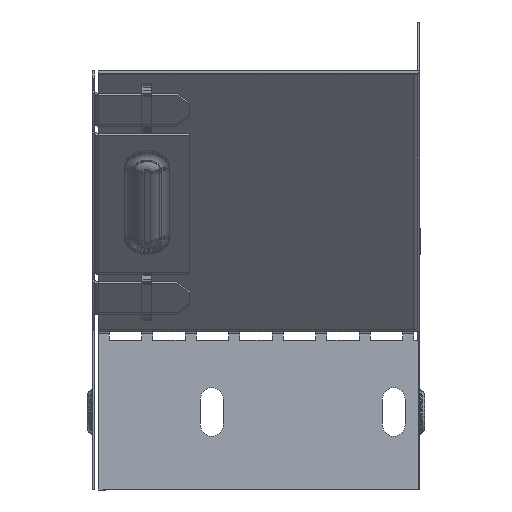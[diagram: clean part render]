
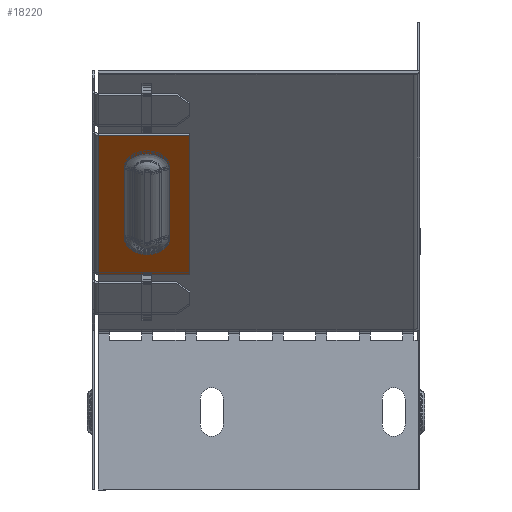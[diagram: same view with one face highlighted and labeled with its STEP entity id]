
A CAD part, left-side view. The second image highlights one B-rep face of the part: STEP entity #18220.
In plain terms, the highlighted planar face has unit normal (-0.707, 0, -0.707).
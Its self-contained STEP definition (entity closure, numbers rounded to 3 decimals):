
#31 = ORIENTED_EDGE ( 'NONE', *, *, #16624, .T. ) ;
#111 = VECTOR ( 'NONE', #14034, 1000. ) ;
#382 = EDGE_CURVE ( 'NONE', #21470, #20615, #11731, .T. ) ;
#739 = CARTESIAN_POINT ( 'NONE',  ( -329.993, 76.183, -66.685 ) ) ;
#1070 = CARTESIAN_POINT ( 'NONE',  ( -361.823, 70., -34.855 ) ) ;
#1325 = CARTESIAN_POINT ( 'NONE',  ( -319.022, 98.2, -77.656 ) ) ;
#1626 = EDGE_CURVE ( 'NONE', #19849, #14377, #15440, .T. ) ;
#2606 = VERTEX_POINT ( 'NONE', #4483 ) ;
#2621 = DIRECTION ( 'NONE',  ( 0., -1., 0. ) ) ;
#2677 = CARTESIAN_POINT ( 'NONE',  ( -361.823, 98.2, -34.855 ) ) ;
#2978 = DIRECTION ( 'NONE',  ( 0.707, 0., -0.707 ) ) ;
#3937 = FACE_BOUND ( 'NONE', #8603, .T. ) ;
#4023 = VECTOR ( 'NONE', #2978, 1000. ) ;
#4364 = CARTESIAN_POINT ( 'NONE',  ( -329.993, 90.017, -66.685 ) ) ;
#4398 = ORIENTED_EDGE ( 'NONE', *, *, #7983, .T. ) ;
#4483 = CARTESIAN_POINT ( 'NONE',  ( -329.993, 90.017, -66.685 ) ) ;
#4747 = VECTOR ( 'NONE', #12982, 1000. ) ;
#4882 = CARTESIAN_POINT ( 'NONE',  ( -351.206, 83.1, -45.472 ) ) ;
#5101 = VERTEX_POINT ( 'NONE', #9339 ) ;
#5194 = DIRECTION ( 'NONE',  ( 0.5, -0.707, -0.5 ) ) ;
#5401 = CARTESIAN_POINT ( 'NONE',  ( -190.837, 70., -205.841 ) ) ;
#5465 = LINE ( 'NONE', #739, #4023 ) ;
#6177 = CARTESIAN_POINT ( 'NONE',  ( -351.206, 76.183, -45.472 ) ) ;
#6253 = ORIENTED_EDGE ( 'NONE', *, *, #10562, .T. ) ;
#6603 = EDGE_CURVE ( 'NONE', #23679, #2606, #23615, .T. ) ;
#6779 = EDGE_CURVE ( 'NONE', #2606, #21470, #15750, .T. ) ;
#6894 = LINE ( 'NONE', #17644, #7186 ) ;
#7186 = VECTOR ( 'NONE', #2621, 1000. ) ;
#7983 = EDGE_CURVE ( 'NONE', #20615, #23679, #5465, .T. ) ;
#8603 = EDGE_LOOP ( 'NONE', ( #4398, #12338, #18944, #17919 ) ) ;
#9235 = CARTESIAN_POINT ( 'NONE',  ( -190.837, 100., -205.841 ) ) ;
#9339 = CARTESIAN_POINT ( 'NONE',  ( -319.022, 70., -77.656 ) ) ;
#9663 = EDGE_LOOP ( 'NONE', ( #11483, #13839, #6253, #31 ) ) ;
#9982 = CARTESIAN_POINT ( 'NONE',  ( -351.206, 90.017, -45.472 ) ) ;
#10139 = CARTESIAN_POINT ( 'NONE',  ( -378.087, 98.2, -18.591 ) ) ;
#10238 = VECTOR ( 'NONE', #15432, 1000. ) ;
#10562 = EDGE_CURVE ( 'NONE', #5101, #11776, #13182, .T. ) ;
#10580 = LINE ( 'NONE', #1070, #111 ) ;
#11115 = DIRECTION ( 'NONE',  ( 0.707, 0., -0.707 ) ) ;
#11483 = ORIENTED_EDGE ( 'NONE', *, *, #1626, .F. ) ;
#11731 = CIRCLE ( 'NONE', #14728, 6.917 ) ;
#11776 = VERTEX_POINT ( 'NONE', #13302 ) ;
#12059 = DIRECTION ( 'NONE',  ( -0.707, 0., 0.707 ) ) ;
#12338 = ORIENTED_EDGE ( 'NONE', *, *, #6603, .T. ) ;
#12982 = DIRECTION ( 'NONE',  ( -0.707, 0., 0.707 ) ) ;
#13126 = VECTOR ( 'NONE', #12059, 1000. ) ;
#13182 = LINE ( 'NONE', #5401, #4747 ) ;
#13302 = CARTESIAN_POINT ( 'NONE',  ( -361.823, 70., -34.855 ) ) ;
#13827 = DIRECTION ( 'NONE',  ( 0.707, 0., 0.707 ) ) ;
#13839 = ORIENTED_EDGE ( 'NONE', *, *, #14108, .T. ) ;
#14034 = DIRECTION ( 'NONE',  ( 0., 1., 0. ) ) ;
#14108 = EDGE_CURVE ( 'NONE', #19849, #5101, #6894, .T. ) ;
#14377 = VERTEX_POINT ( 'NONE', #2677 ) ;
#14516 = CARTESIAN_POINT ( 'NONE',  ( -329.993, 83.1, -66.685 ) ) ;
#14728 = AXIS2_PLACEMENT_3D ( 'NONE', #4882, #13827, #23365 ) ;
#15432 = DIRECTION ( 'NONE',  ( -0.707, 0., 0.707 ) ) ;
#15440 = LINE ( 'NONE', #10139, #13126 ) ;
#15750 = LINE ( 'NONE', #4364, #10238 ) ;
#16262 = AXIS2_PLACEMENT_3D ( 'NONE', #9235, #22265, #11115 ) ;
#16359 = DIRECTION ( 'NONE',  ( 0.707, 0., 0.707 ) ) ;
#16624 = EDGE_CURVE ( 'NONE', #11776, #14377, #10580, .T. ) ;
#17644 = CARTESIAN_POINT ( 'NONE',  ( -319.022, 70., -77.656 ) ) ;
#17919 = ORIENTED_EDGE ( 'NONE', *, *, #382, .T. ) ;
#18220 = ADVANCED_FACE ( 'NONE', ( #3937, #19985 ), #20408, .F. ) ;
#18944 = ORIENTED_EDGE ( 'NONE', *, *, #6779, .T. ) ;
#19702 = AXIS2_PLACEMENT_3D ( 'NONE', #14516, #16359, #5194 ) ;
#19849 = VERTEX_POINT ( 'NONE', #1325 ) ;
#19985 = FACE_OUTER_BOUND ( 'NONE', #9663, .T. ) ;
#20408 = PLANE ( 'NONE',  #16262 ) ;
#20615 = VERTEX_POINT ( 'NONE', #6177 ) ;
#21470 = VERTEX_POINT ( 'NONE', #9982 ) ;
#21853 = CARTESIAN_POINT ( 'NONE',  ( -329.993, 76.183, -66.685 ) ) ;
#22265 = DIRECTION ( 'NONE',  ( 0.707, 0., 0.707 ) ) ;
#23365 = DIRECTION ( 'NONE',  ( 0.5, -0.707, -0.5 ) ) ;
#23615 = CIRCLE ( 'NONE', #19702, 6.917 ) ;
#23679 = VERTEX_POINT ( 'NONE', #21853 ) ;
